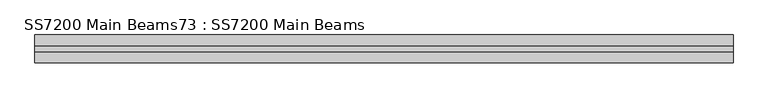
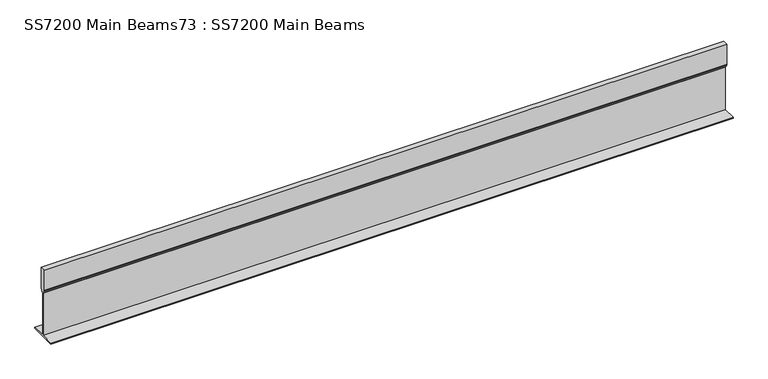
"""IFC4 building model written with IfcOpenShell, lengths in millimetres: beam geometry, SS7200 Main Beams73 : SS7200 Main Beams."""

from ifc_helpers import new_model, si_unit, point, frame, frame_2d, origin, place, context, project, spatial, polyline, circle_curve, trimmed, segment, composite_curve, outline, extrude, source, transform, mapped, element, save


def ss7200_main_beams73_ss7200_main_beams_fb220c4c(model_context):
    return source(origin(), model_context, "Body", "SweptSolid", [
        extrude(outline(composite_curve([segment(polyline([(10834.2774293, 3359.6653554), (10784.2774293, 3359.6653554), (10784.2774293, 3361.6497304), (10808.2874293, 3361.6497304), (10808.2874293, 3443.0809876)]), True, "CONTINUOUS"), segment(trimmed(circle_curve(frame_2d((10806.3030543, 3443.0809876)), 1.984375), [point((10808.2874293, 3443.0809876))], [point((10807.979427, 3444.1428345))], True, "CARTESIAN"), True, "CONTINUOUS"), segment(polyline([(10807.979427, 3444.1428345), (10804.8855164, 3449.0272929)]), True, "CONTINUOUS"), segment(trimmed(circle_curve(frame_2d((10807.9230315, 3450.9513139)), 3.5956022), [point((10804.8855164, 3449.0272929))], [point((10804.3274293, 3450.9513139))], False, "CARTESIAN"), True, "CONTINUOUS"), segment(polyline([(10804.3274293, 3450.9513139), (10804.3274293, 3489.6653554), (10814.2274293, 3489.6653554), (10814.2274293, 3450.9513139)]), True, "CONTINUOUS"), segment(trimmed(circle_curve(frame_2d((10810.6318271, 3450.9513139)), 3.5956022), [point((10814.2274293, 3450.9513139))], [point((10813.6693423, 3449.0272929))], False, "CARTESIAN"), True, "CONTINUOUS"), segment(polyline([(10813.6693423, 3449.0272929), (10810.5799523, 3444.1499714)]), True, "CONTINUOUS"), segment(trimmed(circle_curve(frame_2d((10812.2809296, 3443.0725394)), 2.0135002), [point((10810.5799523, 3444.1499714))], [point((10810.2674293, 3443.0725394))], True, "CARTESIAN"), True, "CONTINUOUS"), segment(polyline([(10810.2674293, 3443.0725394), (10810.2674293, 3361.6497304), (10834.2774293, 3361.6497304), (10834.2774293, 3359.6653554)]), True, "CONTINUOUS")], self_intersect=False)), frame((-10083.6998937, 0.0, 0.0), z_axis=(1.0, 0.0, 0.0), x_axis=(0.0, 1.0, 0.0)), (0.0, 0.0, 1.0), 1243.6046875),
    ])


if __name__ == "__main__":
    model = new_model("IFC4")
    model_context = context("Model", 3, world=origin())
    ifc_project = project(units=[si_unit("LENGTHUNIT", "METRE", prefix="MILLI")], contexts=[model_context])
    site = spatial("IfcSite", under=ifc_project)
    building = spatial("IfcBuilding", under=site)
    placement = place(None, origin())
    ss7200_main_beams73_ss7200_main_beams_shape = ss7200_main_beams73_ss7200_main_beams_fb220c4c(model_context)
    element("IfcBeam", 1, ObjectType="SS7200 Main Beams73 : SS7200 Main Beams", at=placement, inside=building, context=model_context, shape_type="MappedRepresentation", body=[
        mapped(ss7200_main_beams73_ss7200_main_beams_shape, transform((0.0, 0.0, 0.0), x_axis=(1.0, 0.0, 0.0), y_axis=(0.0, 1.0, 0.0), z_axis=(0.0, 0.0, 1.0))),
    ])
    save(model, "model.ifc")
